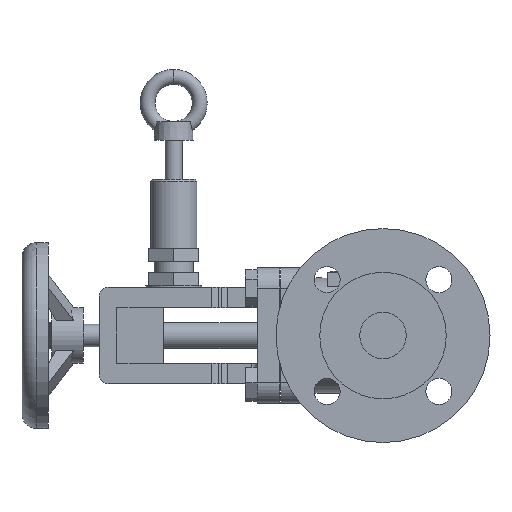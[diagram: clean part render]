
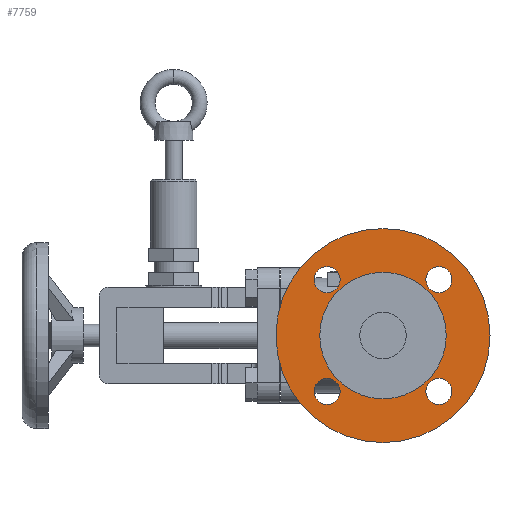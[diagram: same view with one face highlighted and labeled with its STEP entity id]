
A CAD part, left-side view. The second image highlights one B-rep face of the part: STEP entity #7759.
In plain terms, the highlighted planar face has unit normal (-1, 0, 0).
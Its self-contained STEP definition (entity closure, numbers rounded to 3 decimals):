
#283=FACE_BOUND('',#1379,.T.);
#284=FACE_BOUND('',#1380,.T.);
#285=FACE_BOUND('',#1381,.T.);
#286=FACE_BOUND('',#1382,.T.);
#287=FACE_BOUND('',#1383,.T.);
#551=PLANE('',#8284);
#940=FACE_OUTER_BOUND('',#1378,.T.);
#1378=EDGE_LOOP('',(#6829));
#1379=EDGE_LOOP('',(#6830));
#1380=EDGE_LOOP('',(#6831));
#1381=EDGE_LOOP('',(#6832));
#1382=EDGE_LOOP('',(#6833));
#1383=EDGE_LOOP('',(#6834));
#1546=CIRCLE('',#8215,57.5);
#1549=CIRCLE('',#8219,7.);
#1551=CIRCLE('',#8222,7.);
#1553=CIRCLE('',#8225,7.);
#1555=CIRCLE('',#8228,7.);
#1556=CIRCLE('',#8230,34.);
#3685=VERTEX_POINT('',#13277);
#3688=VERTEX_POINT('',#13285);
#3690=VERTEX_POINT('',#13291);
#3692=VERTEX_POINT('',#13297);
#3694=VERTEX_POINT('',#13303);
#3695=VERTEX_POINT('',#13307);
#4694=EDGE_CURVE('',#3685,#3685,#1546,.T.);
#4699=EDGE_CURVE('',#3688,#3688,#1549,.T.);
#4702=EDGE_CURVE('',#3690,#3690,#1551,.T.);
#4705=EDGE_CURVE('',#3692,#3692,#1553,.T.);
#4708=EDGE_CURVE('',#3694,#3694,#1555,.T.);
#4709=EDGE_CURVE('',#3695,#3695,#1556,.T.);
#6829=ORIENTED_EDGE('',*,*,#4694,.F.);
#6830=ORIENTED_EDGE('',*,*,#4702,.F.);
#6831=ORIENTED_EDGE('',*,*,#4705,.F.);
#6832=ORIENTED_EDGE('',*,*,#4708,.F.);
#6833=ORIENTED_EDGE('',*,*,#4699,.F.);
#6834=ORIENTED_EDGE('',*,*,#4709,.F.);
#7759=ADVANCED_FACE('',(#940,#283,#284,#285,#286,#287),#551,.F.);
#8215=AXIS2_PLACEMENT_3D('',#13278,#9789,#9790);
#8219=AXIS2_PLACEMENT_3D('',#13287,#9799,#9800);
#8222=AXIS2_PLACEMENT_3D('',#13293,#9806,#9807);
#8225=AXIS2_PLACEMENT_3D('',#13299,#9813,#9814);
#8228=AXIS2_PLACEMENT_3D('',#13305,#9820,#9821);
#8230=AXIS2_PLACEMENT_3D('',#13308,#9824,#9825);
#8284=AXIS2_PLACEMENT_3D('',#13458,#9993,#9994);
#9789=DIRECTION('center_axis',(1.,0.,0.));
#9790=DIRECTION('ref_axis',(0.,0.,-1.));
#9799=DIRECTION('center_axis',(-1.,0.,0.));
#9800=DIRECTION('ref_axis',(0.,0.,-1.));
#9806=DIRECTION('center_axis',(-1.,0.,0.));
#9807=DIRECTION('ref_axis',(0.,0.,-1.));
#9813=DIRECTION('center_axis',(-1.,0.,0.));
#9814=DIRECTION('ref_axis',(0.,0.,-1.));
#9820=DIRECTION('center_axis',(-1.,0.,0.));
#9821=DIRECTION('ref_axis',(0.,0.,-1.));
#9824=DIRECTION('center_axis',(-1.,0.,0.));
#9825=DIRECTION('ref_axis',(0.,1.,0.));
#9993=DIRECTION('center_axis',(1.,0.,0.));
#9994=DIRECTION('ref_axis',(0.,0.,-1.));
#13277=CARTESIAN_POINT('',(-77.031,-69.055,14.75));
#13278=CARTESIAN_POINT('Origin',(-77.031,-69.055,-42.75));
#13285=CARTESIAN_POINT('',(-77.031,-39.003,-65.802));
#13287=CARTESIAN_POINT('Origin',(-77.031,-39.003,-72.802));
#13291=CARTESIAN_POINT('',(-77.031,-99.107,-65.802));
#13293=CARTESIAN_POINT('Origin',(-77.031,-99.107,-72.802));
#13297=CARTESIAN_POINT('',(-77.031,-39.003,-5.698));
#13299=CARTESIAN_POINT('Origin',(-77.031,-39.003,-12.698));
#13303=CARTESIAN_POINT('',(-77.031,-99.107,-5.698));
#13305=CARTESIAN_POINT('Origin',(-77.031,-99.107,-12.698));
#13307=CARTESIAN_POINT('',(-77.031,-103.055,-42.75));
#13308=CARTESIAN_POINT('Origin',(-77.031,-69.055,-42.75));
#13458=CARTESIAN_POINT('Origin',(-77.031,-23.305,-42.75));
